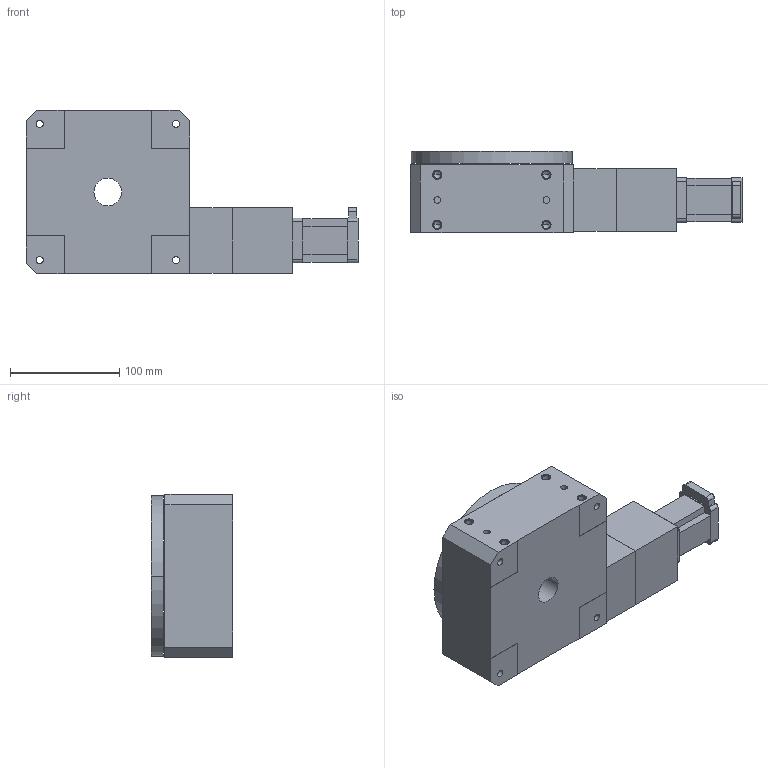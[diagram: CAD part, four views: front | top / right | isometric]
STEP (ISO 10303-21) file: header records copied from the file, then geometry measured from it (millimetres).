
FILE_DESCRIPTION((''),'2;1');
FILE_NAME('R150M7MP1E0_ASM','2009-07-02T',('FK20128'),(''),'PRO/ENGINEER BY PARAMETRIC TECHNOLOGY CORPORATION, 2006200','PRO/ENGINEER BY PARAMETRIC TECHNOLOGY CORPORATION, 2006200','');
FILE_SCHEMA(('CONFIG_CONTROL_DESIGN'));
Length unit declared in the file: millimetre
Products named in the file (4): R150M; R150M-M16; RXXXM-BE163; R150M7MP1E0_ASM
Assembly tree (3 placements, depth 2):
  R150M7MP1E0_ASM
    R150M
    R150M-M16
    RXXXM-BE163
Bounding box: 304.32 x 74.83 x 150 mm (x, y, z)
Volume: 1903633.4 mm3; surface area: 188145.6 mm2
Topology: 4 solids, 24 shells, 303 faces, 747 edges, 488 vertices
Faces by surface type: cylinder 162, plane 107, cone 34
Entity records: 9123 total; most frequent: DIRECTION 1725, CARTESIAN_POINT 1525, ORIENTED_EDGE 1366, EDGE_CURVE 723, AXIS2_PLACEMENT_3D 688, VERTEX_POINT 488, EDGE_LOOP 401, CIRCLE 374
